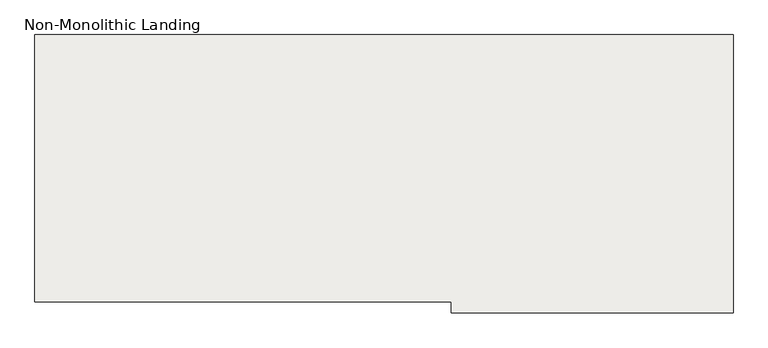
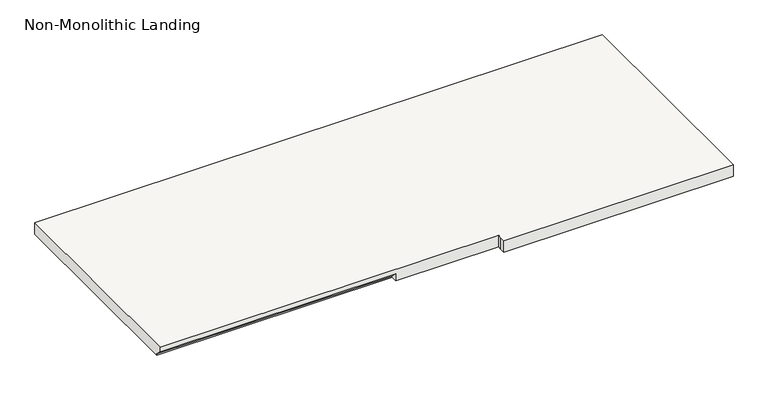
"""IFC4 building model written with IfcOpenShell, lengths in millimetres: slab geometry, Non-Monolithic Landing."""

from ifc_helpers import new_model, si_unit, origin, place, context, project, spatial, faceted_brep, source, transform, mapped, element, save


def non_monolithic_landing_b7f252b9(model_context):
    return source(origin(), model_context, "Body", "Brep", [
        faceted_brep([(3233.9939282, 3559.8563085, 686.8026316), (3233.9939282, 3585.2563085, 661.4026316), (4224.5939282, 3585.2563085, 661.4026316), (4224.5939282, 3559.8563085, 686.8026316), (4658.4030789, 3559.8563085, 705.8526316), (4658.4030789, 3546.6563085, 705.8526316), (4658.4030789, 3521.2563085, 705.8526316), (5623.6030789, 3521.2563085, 705.8526316), (5623.6030789, 3546.6563085, 705.8526316), (5623.6030789, 4474.2563085, 705.8526316), (3233.9939282, 4474.2563085, 705.8526316), (3233.9939282, 3559.8563085, 705.8526316), (4224.5939282, 3585.2563085, 655.0526316), (3233.9939282, 3585.2563085, 655.0526316), (3233.9939282, 4474.2563085, 655.0526316), (5623.6030789, 4474.2563085, 655.0526316), (5623.6030789, 3546.6563085, 655.0526316), (5623.6030789, 3521.2563085, 655.0526316), (4658.4030789, 3521.2563085, 655.0526316), (4658.4030789, 3546.6563085, 655.0526316), (4658.4030789, 3559.8563085, 655.0526316), (4224.5939282, 3559.8563085, 655.0526316)], [[[0, 1, 2, 3]], [[4, 5, 6, 7, 8, 9, 10, 11]], [[12, 13, 14, 15, 16, 17, 18, 19, 20, 21]], [[13, 12, 2, 1]], [[12, 21, 3, 2]], [[4, 11, 0, 3, 21, 20]], [[5, 4, 20, 19]], [[6, 5, 19, 18]], [[7, 6, 18, 17]], [[8, 7, 17, 16]], [[9, 8, 16, 15]], [[10, 9, 15, 14]], [[11, 10, 14, 13, 1, 0]]]),
    ])


if __name__ == "__main__":
    model = new_model("IFC4")
    model_context = context("Model", 3, world=origin())
    ifc_project = project(units=[si_unit("LENGTHUNIT", "METRE", prefix="MILLI")], contexts=[model_context])
    site = spatial("IfcSite", under=ifc_project)
    building = spatial("IfcBuilding", under=site)
    placement = place(None, origin())
    non_monolithic_landing_shape = non_monolithic_landing_b7f252b9(model_context)
    element("IfcSlab", 1, ObjectType="Non-Monolithic Landing", at=placement, inside=building, context=model_context, shape_type="MappedRepresentation", body=[
        mapped(non_monolithic_landing_shape, transform((0.0, 0.0, 0.0), x_axis=(1.0, 0.0, 0.0), y_axis=(0.0, 1.0, 0.0), z_axis=(0.0, 0.0, 1.0))),
    ])
    save(model, "model.ifc")
